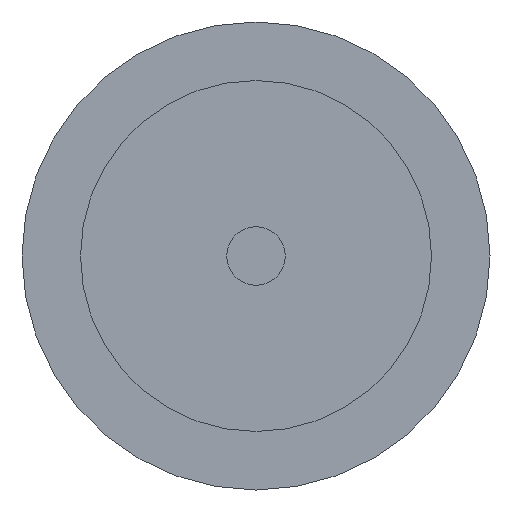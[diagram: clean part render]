
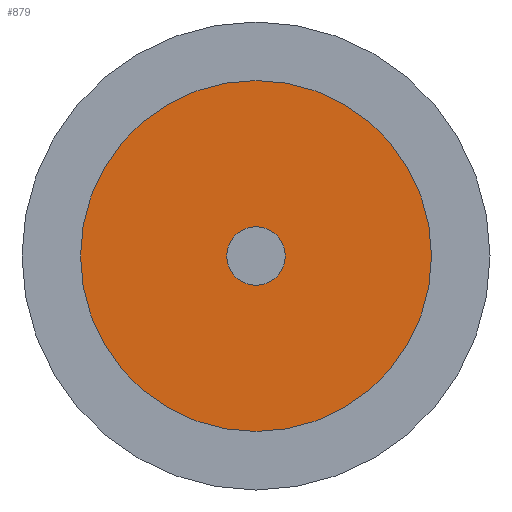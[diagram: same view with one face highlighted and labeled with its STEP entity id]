
A CAD part, left-side view. The second image highlights one B-rep face of the part: STEP entity #879.
In plain terms, the highlighted planar face has unit normal (-1, 0, 0).
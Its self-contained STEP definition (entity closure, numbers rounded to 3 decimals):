
#2 = EDGE_CURVE ( 'NONE', #948, #591, #1002, .T. ) ;
#10 = DIRECTION ( 'NONE',  ( 0., 0., 1. ) ) ;
#14 = CIRCLE ( 'NONE', #196, 75. ) ;
#18 = EDGE_CURVE ( 'NONE', #591, #948, #473, .T. ) ;
#31 = EDGE_CURVE ( 'NONE', #317, #1135, #678, .T. ) ;
#111 = DIRECTION ( 'NONE',  ( 1., 0., 0. ) ) ;
#116 = PLANE ( 'NONE',  #1116 ) ;
#180 = CARTESIAN_POINT ( 'NONE',  ( -30., 0., 75. ) ) ;
#196 = AXIS2_PLACEMENT_3D ( 'NONE', #1212, #1093, #606 ) ;
#231 = DIRECTION ( 'NONE',  ( 0., 0., 1. ) ) ;
#317 = VERTEX_POINT ( 'NONE', #474 ) ;
#337 = DIRECTION ( 'NONE',  ( 0., 0., 1. ) ) ;
#407 = AXIS2_PLACEMENT_3D ( 'NONE', #891, #620, #337 ) ;
#428 = DIRECTION ( 'NONE',  ( -1., 0., 0. ) ) ;
#444 = AXIS2_PLACEMENT_3D ( 'NONE', #796, #428, #231 ) ;
#473 = CIRCLE ( 'NONE', #659, 12.5 ) ;
#474 = CARTESIAN_POINT ( 'NONE',  ( -30., 0., -75. ) ) ;
#591 = VERTEX_POINT ( 'NONE', #1041 ) ;
#602 = DIRECTION ( 'NONE',  ( 0., 0., -1. ) ) ;
#606 = DIRECTION ( 'NONE',  ( 0., 0., 1. ) ) ;
#620 = DIRECTION ( 'NONE',  ( -1., 0., 0. ) ) ;
#659 = AXIS2_PLACEMENT_3D ( 'NONE', #1067, #895, #10 ) ;
#678 = CIRCLE ( 'NONE', #444, 75. ) ;
#782 = CARTESIAN_POINT ( 'NONE',  ( -30., 0., 12.5 ) ) ;
#796 = CARTESIAN_POINT ( 'NONE',  ( -30., 0., 0. ) ) ;
#811 = ORIENTED_EDGE ( 'NONE', *, *, #1091, .T. ) ;
#867 = EDGE_LOOP ( 'NONE', ( #811, #1042 ) ) ;
#878 = FACE_OUTER_BOUND ( 'NONE', #867, .T. ) ;
#879 = ADVANCED_FACE ( 'NONE', ( #1019, #878 ), #116, .F. ) ;
#891 = CARTESIAN_POINT ( 'NONE',  ( -30., 0., 0. ) ) ;
#895 = DIRECTION ( 'NONE',  ( -1., 0., 0. ) ) ;
#948 = VERTEX_POINT ( 'NONE', #782 ) ;
#1002 = CIRCLE ( 'NONE', #407, 12.5 ) ;
#1019 = FACE_BOUND ( 'NONE', #1047, .T. ) ;
#1032 = ORIENTED_EDGE ( 'NONE', *, *, #2, .F. ) ;
#1041 = CARTESIAN_POINT ( 'NONE',  ( -30., 0., -12.5 ) ) ;
#1042 = ORIENTED_EDGE ( 'NONE', *, *, #31, .T. ) ;
#1047 = EDGE_LOOP ( 'NONE', ( #1032, #1062 ) ) ;
#1062 = ORIENTED_EDGE ( 'NONE', *, *, #18, .F. ) ;
#1067 = CARTESIAN_POINT ( 'NONE',  ( -30., 0., 0. ) ) ;
#1091 = EDGE_CURVE ( 'NONE', #1135, #317, #14, .T. ) ;
#1093 = DIRECTION ( 'NONE',  ( -1., 0., 0. ) ) ;
#1116 = AXIS2_PLACEMENT_3D ( 'NONE', #1161, #111, #602 ) ;
#1135 = VERTEX_POINT ( 'NONE', #180 ) ;
#1161 = CARTESIAN_POINT ( 'NONE',  ( -30., 75., 0. ) ) ;
#1212 = CARTESIAN_POINT ( 'NONE',  ( -30., 0., 0. ) ) ;
